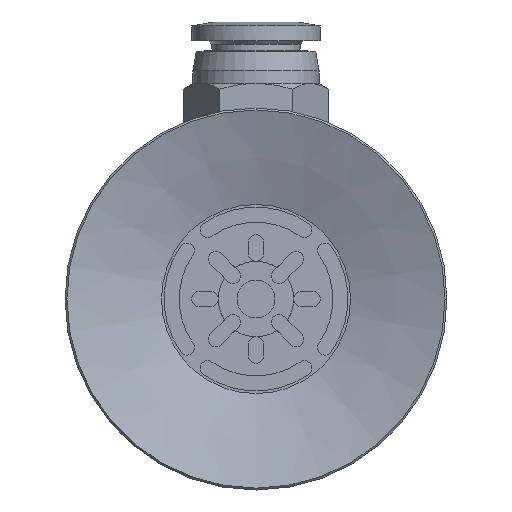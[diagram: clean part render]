
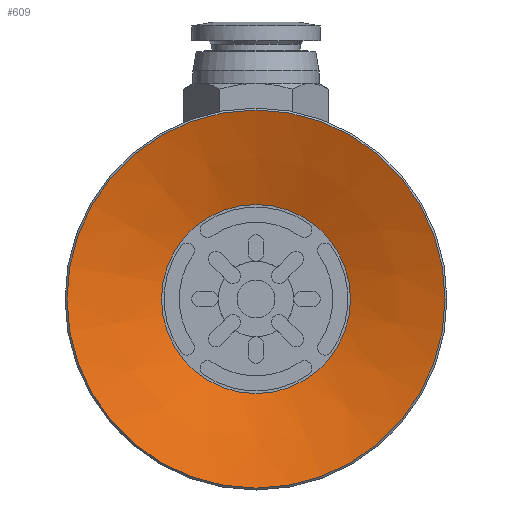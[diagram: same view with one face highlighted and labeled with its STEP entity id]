
A CAD part, front view. The second image highlights one B-rep face of the part: STEP entity #609.
In plain terms, the highlighted conical face has half-angle 70.201 degrees and reference radius 7.5 mm.
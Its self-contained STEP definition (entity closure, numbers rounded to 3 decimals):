
#609=ADVANCED_FACE('',(#1049,#1050),#1051,.F.);
#1049=FACE_BOUND('',#1794,.T.);
#1050=FACE_OUTER_BOUND('',#1795,.T.);
#1051=CONICAL_SURFACE('',#1796,7.5,1.225);
#1794=EDGE_LOOP('',(#2978));
#1795=EDGE_LOOP('',(#2979));
#1796=AXIS2_PLACEMENT_3D('',#2980,#2981,#2982);
#2978=ORIENTED_EDGE('',*,*,#3852,.F.);
#2979=ORIENTED_EDGE('',*,*,#3853,.T.);
#2980=CARTESIAN_POINT('',(0.0,0.0,2.7));
#2981=DIRECTION('',(0.0,0.,-1.0));
#2982=DIRECTION('',(0.0,1.0,0.));
#3852=EDGE_CURVE('',#4540,#4540,#4541,.T.);
#3853=EDGE_CURVE('',#4542,#4542,#4543,.T.);
#4540=VERTEX_POINT('',#6117);
#4541=CIRCLE('',#6118,7.5);
#4542=VERTEX_POINT('',#6119);
#4543=CIRCLE('',#6120,15.0);
#6117=CARTESIAN_POINT('',(0.0,7.5,2.7));
#6118=AXIS2_PLACEMENT_3D('',#6901,#6902,#6903);
#6119=CARTESIAN_POINT('',(0.0,15.0,0.));
#6120=AXIS2_PLACEMENT_3D('',#6904,#6905,#6906);
#6901=CARTESIAN_POINT('',(0.0,0.0,2.7));
#6902=DIRECTION('',(0.0,0.,-1.0));
#6903=DIRECTION('',(0.0,1.0,0.));
#6904=CARTESIAN_POINT('',(0.0,0.0,0.0));
#6905=DIRECTION('',(0.0,0.,-1.0));
#6906=DIRECTION('',(0.0,1.0,0.));
